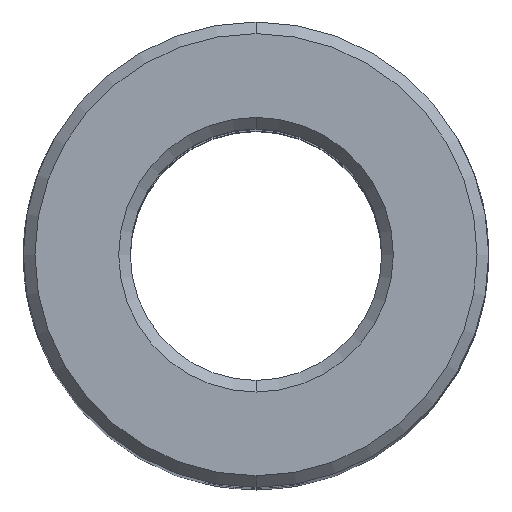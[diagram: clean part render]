
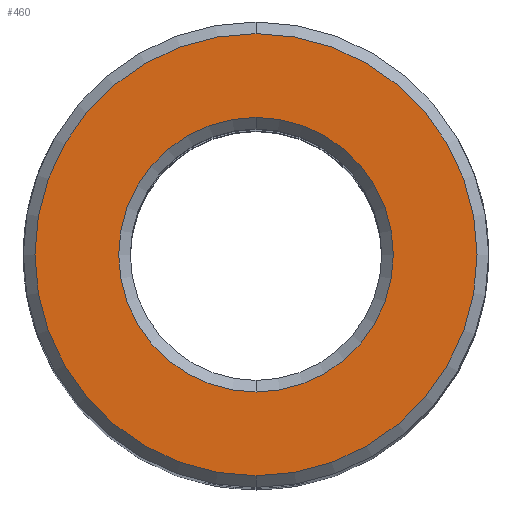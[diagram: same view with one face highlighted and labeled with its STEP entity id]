
A CAD part, top view. The second image highlights one B-rep face of the part: STEP entity #460.
In plain terms, the highlighted planar face has unit normal (0, 0, 1).
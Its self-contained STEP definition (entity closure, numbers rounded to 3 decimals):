
#18 = DIRECTION ( 'NONE',  ( 0., 0., -1. ) ) ;
#62 = CARTESIAN_POINT ( 'NONE',  ( 0., 0., 0. ) ) ;
#75 = VERTEX_POINT ( 'NONE', #973 ) ;
#90 = CARTESIAN_POINT ( 'NONE',  ( 0., 0., 0. ) ) ;
#136 = AXIS2_PLACEMENT_3D ( 'NONE', #1129, #1151, #332 ) ;
#149 = EDGE_CURVE ( 'NONE', #195, #75, #811, .T. ) ;
#155 = DIRECTION ( 'NONE',  ( 0., 0., -1. ) ) ;
#195 = VERTEX_POINT ( 'NONE', #356 ) ;
#209 = EDGE_LOOP ( 'NONE', ( #1234, #382 ) ) ;
#246 = EDGE_CURVE ( 'NONE', #1225, #1220, #752, .T. ) ;
#266 = DIRECTION ( 'NONE',  ( 0., 1., 0. ) ) ;
#300 = DIRECTION ( 'NONE',  ( 0., 0., -1. ) ) ;
#311 = CARTESIAN_POINT ( 'NONE',  ( 0., 5.4, 0. ) ) ;
#332 = DIRECTION ( 'NONE',  ( 0., 1., 0. ) ) ;
#338 = CIRCLE ( 'NONE', #1212, 9.5 ) ;
#356 = CARTESIAN_POINT ( 'NONE',  ( 0., 5.9, 0. ) ) ;
#382 = ORIENTED_EDGE ( 'NONE', *, *, #246, .T. ) ;
#388 = PLANE ( 'NONE',  #1135 ) ;
#416 = CARTESIAN_POINT ( 'NONE',  ( 0., 9.5, 0. ) ) ;
#456 = EDGE_CURVE ( 'NONE', #1220, #1225, #338, .T. ) ;
#460 = ADVANCED_FACE ( 'NONE', ( #601, #1056 ), #388, .F. ) ;
#462 = EDGE_LOOP ( 'NONE', ( #524, #1088 ) ) ;
#485 = CARTESIAN_POINT ( 'NONE',  ( 0., 0., 0. ) ) ;
#524 = ORIENTED_EDGE ( 'NONE', *, *, #855, .T. ) ;
#568 = AXIS2_PLACEMENT_3D ( 'NONE', #90, #300, #943 ) ;
#571 = DIRECTION ( 'NONE',  ( 0., 1., 0. ) ) ;
#601 = FACE_BOUND ( 'NONE', #462, .T. ) ;
#642 = AXIS2_PLACEMENT_3D ( 'NONE', #62, #155, #266 ) ;
#667 = DIRECTION ( 'NONE',  ( 0., 1., 0. ) ) ;
#752 = CIRCLE ( 'NONE', #136, 9.5 ) ;
#807 = CIRCLE ( 'NONE', #568, 5.9 ) ;
#811 = CIRCLE ( 'NONE', #642, 5.9 ) ;
#855 = EDGE_CURVE ( 'NONE', #75, #195, #807, .T. ) ;
#943 = DIRECTION ( 'NONE',  ( 0., 1., 0. ) ) ;
#973 = CARTESIAN_POINT ( 'NONE',  ( 0., -5.9, 0. ) ) ;
#1056 = FACE_OUTER_BOUND ( 'NONE', #209, .T. ) ;
#1078 = CARTESIAN_POINT ( 'NONE',  ( 0., -9.5, 0. ) ) ;
#1088 = ORIENTED_EDGE ( 'NONE', *, *, #149, .T. ) ;
#1129 = CARTESIAN_POINT ( 'NONE',  ( 0., 0., 0. ) ) ;
#1135 = AXIS2_PLACEMENT_3D ( 'NONE', #311, #18, #667 ) ;
#1151 = DIRECTION ( 'NONE',  ( 0., 0., 1. ) ) ;
#1155 = DIRECTION ( 'NONE',  ( 0., 0., 1. ) ) ;
#1212 = AXIS2_PLACEMENT_3D ( 'NONE', #485, #1155, #571 ) ;
#1220 = VERTEX_POINT ( 'NONE', #416 ) ;
#1225 = VERTEX_POINT ( 'NONE', #1078 ) ;
#1234 = ORIENTED_EDGE ( 'NONE', *, *, #456, .T. ) ;
